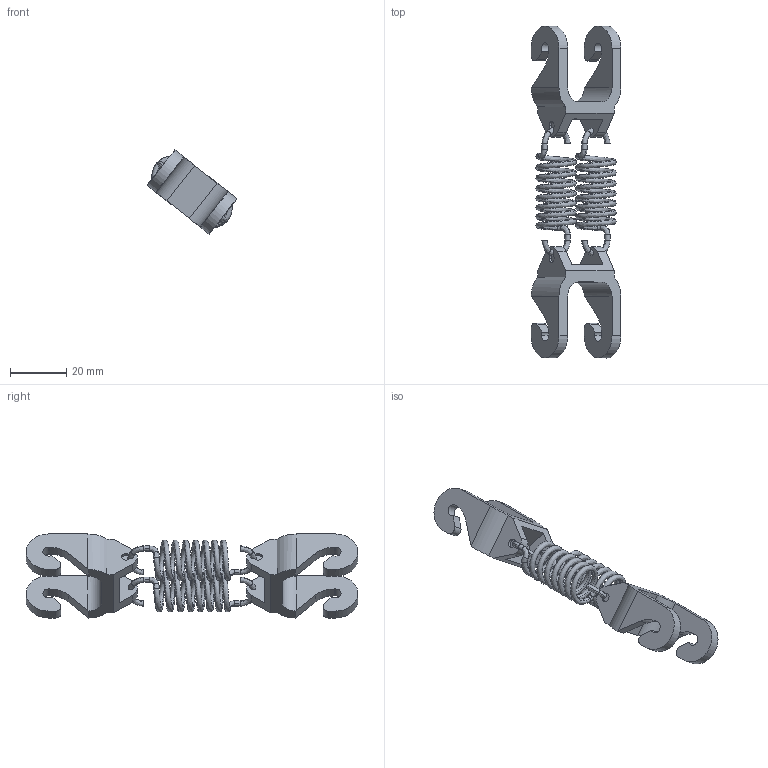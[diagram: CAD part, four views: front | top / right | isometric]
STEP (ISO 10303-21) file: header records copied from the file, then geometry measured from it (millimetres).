
FILE_DESCRIPTION (( 'STEP AP214' ), '1' );
FILE_NAME ('IRB360_8-1130-STD-4D_rev03_LA1_CL_CAD.step', '2025-01-14T07:05:05', ( '' ), ( '' ), 'SwSTEP 2.0', 'SolidWorks 2022', '' );
FILE_SCHEMA (( 'AUTOMOTIVE_DESIGN' ));
Length unit declared in the file: millimetre
Products named in the file (1): IRB360_8-1130-STD-4D_rev03_LA1_CL_CAD
Bounding box: 31.9 x 118 x 29.88 mm (x, y, z)
Volume: 11802.8 mm3; surface area: 10699.5 mm2
Topology: 1 solids, 1 shells, 156 faces, 420 edges, 272 vertices
Faces by surface type: plane 54, bspline 52, cylinder 50
Entity records: 10994 total; most frequent: CARTESIAN_POINT 6521, ORIENTED_EDGE 840, DIRECTION 750, EDGE_CURVE 420, AXIS2_PLACEMENT_3D 293, VERTEX_POINT 272, CIRCLE 188, VECTOR 164
